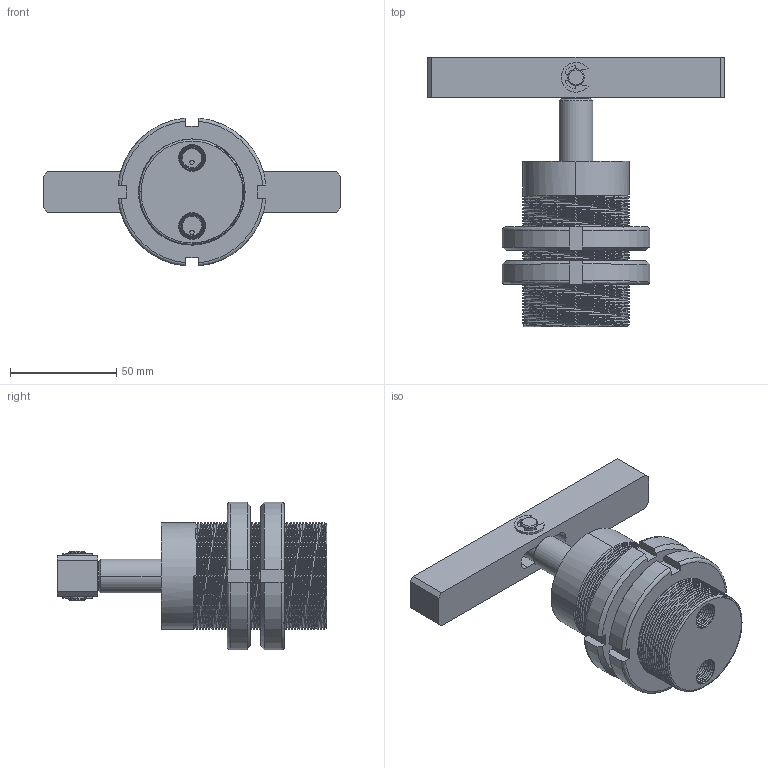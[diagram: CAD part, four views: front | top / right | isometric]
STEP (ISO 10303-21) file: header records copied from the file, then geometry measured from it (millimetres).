
FILE_DESCRIPTION (( 'STEP AP214' ), '1' );
FILE_NAME ('cas-tb32d_asm.STEP', '2013-09-16T08:40:04', ( '微软用户' ), ( '微软中国' ), 'SwSTEP 2.0', 'SolidWorks 2012', '' );
FILE_SCHEMA (( 'AUTOMOTIVE_DESIGN' ));
Length unit declared in the file: millimetre
Products named in the file (8): KKDC; XDIAO; 揤旋; CAS-TB32DHSG; CAS-TB32QG; CAS-TB32LM; CAS-TB32BT; cas-tb32d_asm
Assembly tree (9 placements, depth 2):
  cas-tb32d_asm
    CAS-TB32BT
    CAS-TB32LM  x2
    CAS-TB32QG
    CAS-TB32DHSG
    揤旋
    XDIAO
    KKDC  x2
Bounding box: 140 x 127 x 69.74 mm (x, y, z)
Volume: 214897.6 mm3; surface area: 80526.9 mm2
Topology: 9 solids, 9 shells, 467 faces, 1556 edges, 1116 vertices
Faces by surface type: cylinder 235, plane 88, bspline 82, cone 62
Entity records: 47988 total; most frequent: CARTESIAN_POINT 37381, ORIENTED_EDGE 2662, DIRECTION 1333, EDGE_CURVE 1331, VERTEX_POINT 963, B_SPLINE_CURVE_WITH_KNOTS 806, AXIS2_PLACEMENT_3D 478, EDGE_LOOP 430
